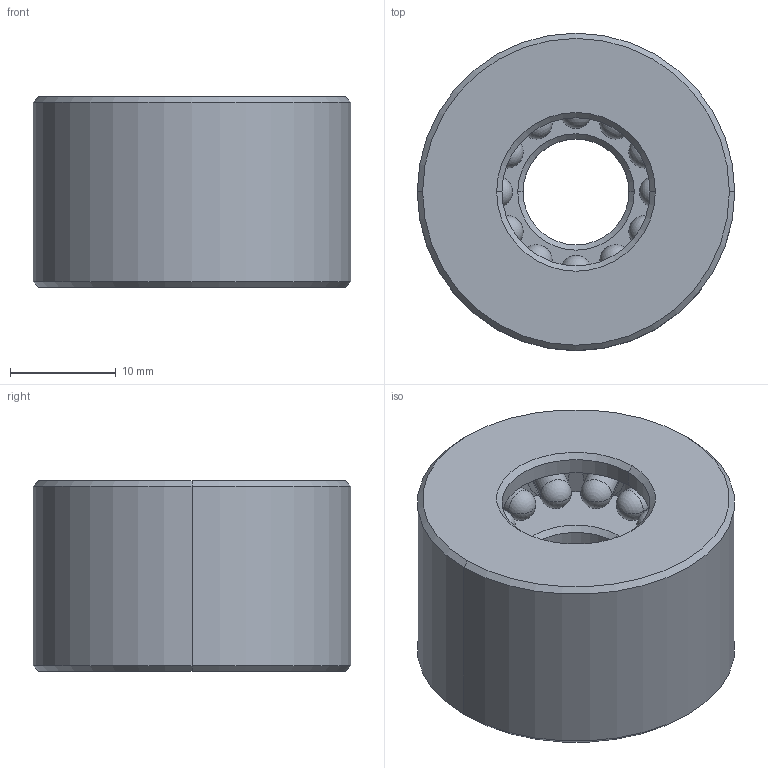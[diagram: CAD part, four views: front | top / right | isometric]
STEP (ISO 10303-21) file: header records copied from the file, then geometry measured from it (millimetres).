
FILE_DESCRIPTION((''),'2;1');
FILE_NAME('DRL3090_ASM','2020-03-27T',('ASUS'),(''),'PRO/ENGINEER BY PARAMETRIC TECHNOLOGY CORPORATION, 2008380','PRO/ENGINEER BY PARAMETRIC TECHNOLOGY CORPORATION, 2008380','');
FILE_SCHEMA(('CONFIG_CONTROL_DESIGN'));
Length unit declared in the file: millimetre
Products named in the file (3): DRL3090; LED; DRL3090_ASM
Assembly tree (13 placements, depth 2):
  DRL3090_ASM
    DRL3090
    LED  x12
Bounding box: 30 x 30 x 18 mm (x, y, z)
Volume: 9909.4 mm3; surface area: 5392.1 mm2
Topology: 13 solids, 17 shells, 146 faces, 308 edges, 178 vertices
Faces by surface type: cylinder 72, plane 32, sphere 24, cone 18
Entity records: 1767 total; most frequent: DIRECTION 350, CARTESIAN_POINT 277, ORIENTED_EDGE 228, AXIS2_PLACEMENT_3D 152, EDGE_CURVE 122, VERTEX_POINT 79, CIRCLE 76, EDGE_LOOP 71
